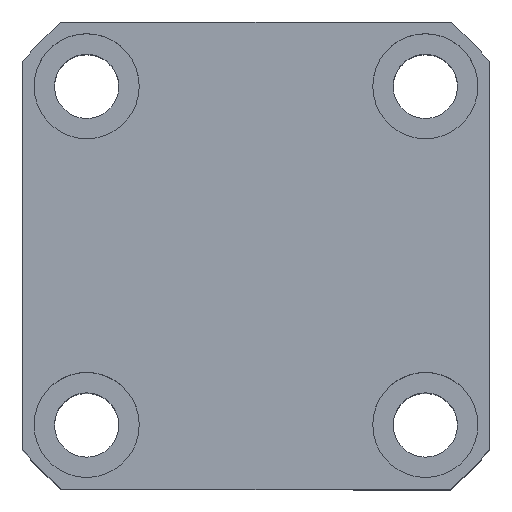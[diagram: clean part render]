
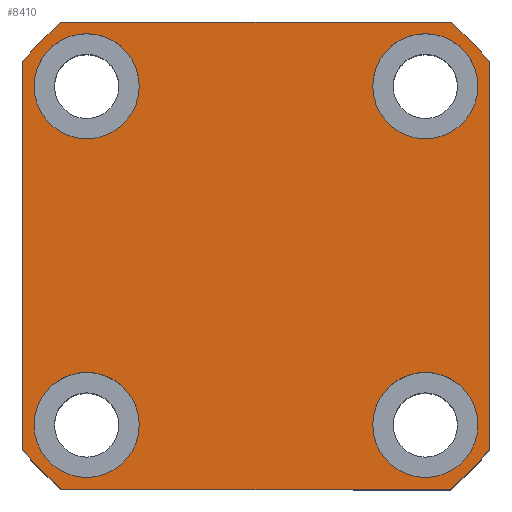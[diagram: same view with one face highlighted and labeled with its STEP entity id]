
A CAD part, top view. The second image highlights one B-rep face of the part: STEP entity #8410.
In plain terms, the highlighted planar face has unit normal (0, 0, 1).
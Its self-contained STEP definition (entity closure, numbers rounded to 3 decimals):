
#7 = CARTESIAN_POINT ( 'NONE',  ( 40., -33.226, 42.5 ) ) ;
#60 = CIRCLE ( 'NONE', #5219, 9. ) ;
#109 = DIRECTION ( 'NONE',  ( 1., 0., 0. ) ) ;
#115 = VERTEX_POINT ( 'NONE', #6861 ) ;
#146 = CARTESIAN_POINT ( 'NONE',  ( -33.226, 40., 42.5 ) ) ;
#231 = AXIS2_PLACEMENT_3D ( 'NONE', #6890, #8629, #109 ) ;
#414 = DIRECTION ( 'NONE',  ( 1., 0., 0. ) ) ;
#466 = CIRCLE ( 'NONE', #3390, 9. ) ;
#712 = DIRECTION ( 'NONE',  ( 0., -1., 0. ) ) ;
#778 = DIRECTION ( 'NONE',  ( 1., 0., 0. ) ) ;
#848 = DIRECTION ( 'NONE',  ( 0., 0., 1. ) ) ;
#1150 = ORIENTED_EDGE ( 'NONE', *, *, #9040, .T. ) ;
#1199 = EDGE_CURVE ( 'NONE', #115, #9781, #5316, .T. ) ;
#1259 = CIRCLE ( 'NONE', #3180, 9. ) ;
#1266 = EDGE_LOOP ( 'NONE', ( #4409, #7340 ) ) ;
#1272 = CARTESIAN_POINT ( 'NONE',  ( 29., -29., 42.5 ) ) ;
#1283 = CARTESIAN_POINT ( 'NONE',  ( 20., -29., 42.5 ) ) ;
#1284 = ORIENTED_EDGE ( 'NONE', *, *, #10842, .F. ) ;
#1353 = CARTESIAN_POINT ( 'NONE',  ( -29., 29., 42.5 ) ) ;
#1392 = DIRECTION ( 'NONE',  ( 0., 0., 1. ) ) ;
#1394 = AXIS2_PLACEMENT_3D ( 'NONE', #4436, #8609, #8647 ) ;
#1476 = LINE ( 'NONE', #1707, #3950 ) ;
#1536 = DIRECTION ( 'NONE',  ( 0., 0., 1. ) ) ;
#1625 = CARTESIAN_POINT ( 'NONE',  ( 40., 33.226, 42.5 ) ) ;
#1631 = FACE_BOUND ( 'NONE', #5885, .T. ) ;
#1707 = CARTESIAN_POINT ( 'NONE',  ( -33.226, -40., 42.5 ) ) ;
#2093 = CARTESIAN_POINT ( 'NONE',  ( 38., 29., 42.5 ) ) ;
#2109 = CARTESIAN_POINT ( 'NONE',  ( 33.226, 40., 42.5 ) ) ;
#2215 = EDGE_LOOP ( 'NONE', ( #4239, #6179, #10843, #2613, #1150, #3344, #3285, #8824 ) ) ;
#2432 = CARTESIAN_POINT ( 'NONE',  ( -29., -29., 42.5 ) ) ;
#2516 = PLANE ( 'NONE',  #9338 ) ;
#2613 = ORIENTED_EDGE ( 'NONE', *, *, #3203, .T. ) ;
#2761 = CARTESIAN_POINT ( 'NONE',  ( -38., 29., 42.5 ) ) ;
#2892 = VERTEX_POINT ( 'NONE', #4738 ) ;
#2896 = CARTESIAN_POINT ( 'NONE',  ( -33.226, 40., 42.5 ) ) ;
#2916 = FACE_BOUND ( 'NONE', #9068, .T. ) ;
#3180 = AXIS2_PLACEMENT_3D ( 'NONE', #1272, #4666, #5609 ) ;
#3203 = EDGE_CURVE ( 'NONE', #6448, #8844, #1476, .T. ) ;
#3226 = LINE ( 'NONE', #5135, #5988 ) ;
#3232 = ORIENTED_EDGE ( 'NONE', *, *, #5432, .F. ) ;
#3285 = ORIENTED_EDGE ( 'NONE', *, *, #6274, .T. ) ;
#3344 = ORIENTED_EDGE ( 'NONE', *, *, #9509, .T. ) ;
#3390 = AXIS2_PLACEMENT_3D ( 'NONE', #1353, #1392, #7258 ) ;
#3427 = CARTESIAN_POINT ( 'NONE',  ( -33.226, -40., 42.5 ) ) ;
#3502 = DIRECTION ( 'NONE',  ( 0., 0., 1. ) ) ;
#3587 = FACE_BOUND ( 'NONE', #1266, .T. ) ;
#3716 = EDGE_CURVE ( 'NONE', #7159, #2892, #10493, .T. ) ;
#3779 = CARTESIAN_POINT ( 'NONE',  ( -29., -29., 42.5 ) ) ;
#3867 = VERTEX_POINT ( 'NONE', #2109 ) ;
#3927 = EDGE_CURVE ( 'NONE', #2892, #7159, #1259, .T. ) ;
#3950 = VECTOR ( 'NONE', #7578, 1000. ) ;
#3958 = EDGE_CURVE ( 'NONE', #4968, #10449, #466, .T. ) ;
#4021 = CIRCLE ( 'NONE', #4334, 9. ) ;
#4084 = CARTESIAN_POINT ( 'NONE',  ( 33.226, -40., 42.5 ) ) ;
#4099 = EDGE_CURVE ( 'NONE', #9781, #6448, #8880, .T. ) ;
#4123 = CARTESIAN_POINT ( 'NONE',  ( 0., 0., 42.5 ) ) ;
#4239 = ORIENTED_EDGE ( 'NONE', *, *, #8422, .T. ) ;
#4268 = DIRECTION ( 'NONE',  ( 1., 0., 0. ) ) ;
#4309 = CARTESIAN_POINT ( 'NONE',  ( 0., 0., 42.5 ) ) ;
#4334 = AXIS2_PLACEMENT_3D ( 'NONE', #3779, #5431, #10512 ) ;
#4342 = EDGE_CURVE ( 'NONE', #5912, #5891, #5993, .T. ) ;
#4409 = ORIENTED_EDGE ( 'NONE', *, *, #4342, .F. ) ;
#4436 = CARTESIAN_POINT ( 'NONE',  ( 0., 0., 42.5 ) ) ;
#4666 = DIRECTION ( 'NONE',  ( 0., 0., 1. ) ) ;
#4737 = AXIS2_PLACEMENT_3D ( 'NONE', #5877, #848, #778 ) ;
#4738 = CARTESIAN_POINT ( 'NONE',  ( 38., -29., 42.5 ) ) ;
#4750 = AXIS2_PLACEMENT_3D ( 'NONE', #10022, #9297, #7539 ) ;
#4808 = CIRCLE ( 'NONE', #1394, 52. ) ;
#4968 = VERTEX_POINT ( 'NONE', #2761 ) ;
#5011 = EDGE_CURVE ( 'NONE', #5891, #5912, #6238, .T. ) ;
#5014 = CIRCLE ( 'NONE', #9900, 52. ) ;
#5081 = DIRECTION ( 'NONE',  ( 0., 0., 1. ) ) ;
#5107 = CARTESIAN_POINT ( 'NONE',  ( -38., -29., 42.5 ) ) ;
#5135 = CARTESIAN_POINT ( 'NONE',  ( 40., 33.226, 42.5 ) ) ;
#5219 = AXIS2_PLACEMENT_3D ( 'NONE', #2432, #1536, #8246 ) ;
#5316 = LINE ( 'NONE', #5669, #9274 ) ;
#5431 = DIRECTION ( 'NONE',  ( 0., 0., 1. ) ) ;
#5432 = EDGE_CURVE ( 'NONE', #7068, #5543, #60, .T. ) ;
#5543 = VERTEX_POINT ( 'NONE', #5107 ) ;
#5609 = DIRECTION ( 'NONE',  ( 1., 0., 0. ) ) ;
#5669 = CARTESIAN_POINT ( 'NONE',  ( -40., 33.226, 42.5 ) ) ;
#5715 = CIRCLE ( 'NONE', #4737, 52. ) ;
#5877 = CARTESIAN_POINT ( 'NONE',  ( 0., 0., 42.5 ) ) ;
#5885 = EDGE_LOOP ( 'NONE', ( #3232, #1284 ) ) ;
#5891 = VERTEX_POINT ( 'NONE', #6327 ) ;
#5912 = VERTEX_POINT ( 'NONE', #2093 ) ;
#5939 = VERTEX_POINT ( 'NONE', #2896 ) ;
#5978 = DIRECTION ( 'NONE',  ( -1., 0., 0. ) ) ;
#5988 = VECTOR ( 'NONE', #8493, 1000. ) ;
#5993 = CIRCLE ( 'NONE', #8463, 9. ) ;
#6078 = DIRECTION ( 'NONE',  ( 1., 0., 0. ) ) ;
#6179 = ORIENTED_EDGE ( 'NONE', *, *, #1199, .T. ) ;
#6181 = CARTESIAN_POINT ( 'NONE',  ( 0., 0., 42.5 ) ) ;
#6235 = CARTESIAN_POINT ( 'NONE',  ( -40., -33.226, 42.5 ) ) ;
#6238 = CIRCLE ( 'NONE', #10471, 9. ) ;
#6274 = EDGE_CURVE ( 'NONE', #6309, #3867, #5715, .T. ) ;
#6309 = VERTEX_POINT ( 'NONE', #1625 ) ;
#6327 = CARTESIAN_POINT ( 'NONE',  ( 20., 29., 42.5 ) ) ;
#6331 = DIRECTION ( 'NONE',  ( 0., 0., 1. ) ) ;
#6364 = CARTESIAN_POINT ( 'NONE',  ( -20., 29., 42.5 ) ) ;
#6365 = DIRECTION ( 'NONE',  ( 1., 0., 0. ) ) ;
#6382 = EDGE_CURVE ( 'NONE', #3867, #5939, #7807, .T. ) ;
#6448 = VERTEX_POINT ( 'NONE', #3427 ) ;
#6482 = FACE_OUTER_BOUND ( 'NONE', #2215, .T. ) ;
#6861 = CARTESIAN_POINT ( 'NONE',  ( -40., 33.226, 42.5 ) ) ;
#6890 = CARTESIAN_POINT ( 'NONE',  ( 29., -29., 42.5 ) ) ;
#6982 = AXIS2_PLACEMENT_3D ( 'NONE', #6181, #6331, #414 ) ;
#7068 = VERTEX_POINT ( 'NONE', #9820 ) ;
#7114 = DIRECTION ( 'NONE',  ( 1., 0., 0. ) ) ;
#7159 = VERTEX_POINT ( 'NONE', #1283 ) ;
#7258 = DIRECTION ( 'NONE',  ( 1., 0., 0. ) ) ;
#7262 = EDGE_LOOP ( 'NONE', ( #10348, #9466 ) ) ;
#7312 = CIRCLE ( 'NONE', #4750, 9. ) ;
#7340 = ORIENTED_EDGE ( 'NONE', *, *, #5011, .F. ) ;
#7539 = DIRECTION ( 'NONE',  ( 1., 0., 0. ) ) ;
#7578 = DIRECTION ( 'NONE',  ( 1., 0., 0. ) ) ;
#7645 = VERTEX_POINT ( 'NONE', #7 ) ;
#7807 = LINE ( 'NONE', #146, #10276 ) ;
#8053 = CARTESIAN_POINT ( 'NONE',  ( 29., 29., 42.5 ) ) ;
#8246 = DIRECTION ( 'NONE',  ( 1., 0., 0. ) ) ;
#8410 = ADVANCED_FACE ( 'NONE', ( #10019, #1631, #2916, #3587, #6482 ), #2516, .T. ) ;
#8422 = EDGE_CURVE ( 'NONE', #5939, #115, #5014, .T. ) ;
#8463 = AXIS2_PLACEMENT_3D ( 'NONE', #8053, #9852, #6365 ) ;
#8493 = DIRECTION ( 'NONE',  ( 0., 1., 0. ) ) ;
#8590 = CARTESIAN_POINT ( 'NONE',  ( 29., 29., 42.5 ) ) ;
#8609 = DIRECTION ( 'NONE',  ( 0., 0., 1. ) ) ;
#8629 = DIRECTION ( 'NONE',  ( 0., 0., 1. ) ) ;
#8647 = DIRECTION ( 'NONE',  ( 1., 0., 0. ) ) ;
#8824 = ORIENTED_EDGE ( 'NONE', *, *, #6382, .T. ) ;
#8844 = VERTEX_POINT ( 'NONE', #4084 ) ;
#8880 = CIRCLE ( 'NONE', #6982, 52. ) ;
#9040 = EDGE_CURVE ( 'NONE', #8844, #7645, #4808, .T. ) ;
#9068 = EDGE_LOOP ( 'NONE', ( #10050, #9849 ) ) ;
#9274 = VECTOR ( 'NONE', #712, 1000. ) ;
#9297 = DIRECTION ( 'NONE',  ( 0., 0., 1. ) ) ;
#9338 = AXIS2_PLACEMENT_3D ( 'NONE', #4123, #5081, #4268 ) ;
#9466 = ORIENTED_EDGE ( 'NONE', *, *, #3716, .F. ) ;
#9509 = EDGE_CURVE ( 'NONE', #7645, #6309, #3226, .T. ) ;
#9530 = EDGE_CURVE ( 'NONE', #10449, #4968, #7312, .T. ) ;
#9610 = DIRECTION ( 'NONE',  ( 0., 0., 1. ) ) ;
#9781 = VERTEX_POINT ( 'NONE', #6235 ) ;
#9820 = CARTESIAN_POINT ( 'NONE',  ( -20., -29., 42.5 ) ) ;
#9849 = ORIENTED_EDGE ( 'NONE', *, *, #3958, .F. ) ;
#9852 = DIRECTION ( 'NONE',  ( 0., 0., 1. ) ) ;
#9900 = AXIS2_PLACEMENT_3D ( 'NONE', #4309, #3502, #6078 ) ;
#10019 = FACE_BOUND ( 'NONE', #7262, .T. ) ;
#10022 = CARTESIAN_POINT ( 'NONE',  ( -29., 29., 42.5 ) ) ;
#10050 = ORIENTED_EDGE ( 'NONE', *, *, #9530, .F. ) ;
#10276 = VECTOR ( 'NONE', #5978, 1000. ) ;
#10348 = ORIENTED_EDGE ( 'NONE', *, *, #3927, .F. ) ;
#10449 = VERTEX_POINT ( 'NONE', #6364 ) ;
#10471 = AXIS2_PLACEMENT_3D ( 'NONE', #8590, #9610, #7114 ) ;
#10493 = CIRCLE ( 'NONE', #231, 9. ) ;
#10512 = DIRECTION ( 'NONE',  ( 1., 0., 0. ) ) ;
#10842 = EDGE_CURVE ( 'NONE', #5543, #7068, #4021, .T. ) ;
#10843 = ORIENTED_EDGE ( 'NONE', *, *, #4099, .T. ) ;
